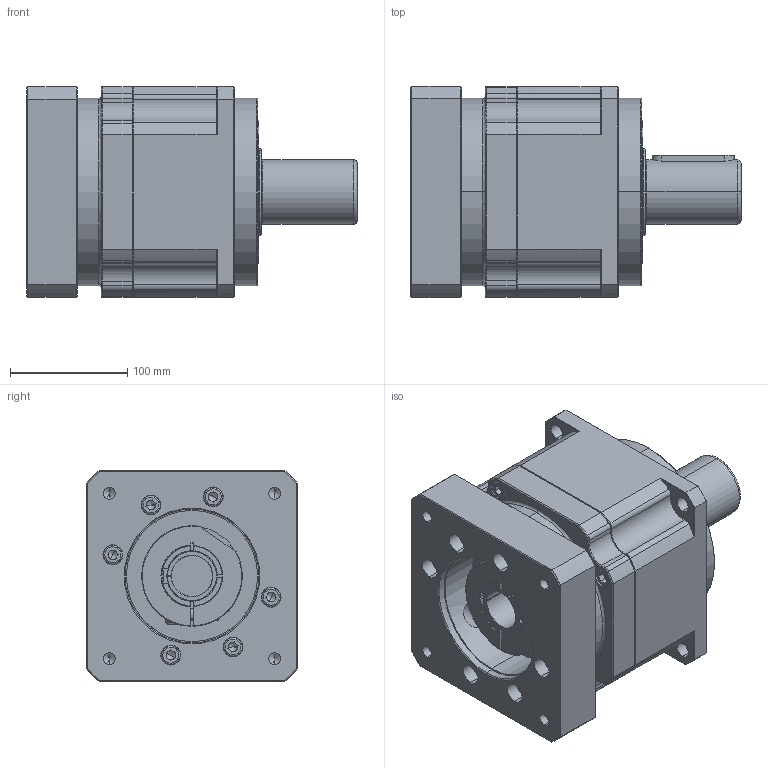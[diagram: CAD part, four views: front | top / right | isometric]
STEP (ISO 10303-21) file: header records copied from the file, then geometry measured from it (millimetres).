
FILE_DESCRIPTION (( 'STEP AP214' ), '1' );
FILE_NAME ('PAB-180-L1-S2-P1 35-114.3-200-M12.STEP', '2023-08-11T05:33:45', ( '微软用户' ), ( '微软中国' ), 'SwSTEP 2.0', 'SolidWorks 2018', '' );
FILE_SCHEMA (( 'AUTOMOTIVE_DESIGN' ));
Length unit declared in the file: millimetre
Products named in the file (11): hexagon socket head cap screws gb_GB_FASTENER_SCREWS_HSHCS M10X40-N; 42-35曹噤杶; PAB-180笢潔楊擘俋倛芞; hex socket set screws with flat point gb_GB_FASTENER_SCREWS_HSFP M20X20-N; hexagon socket head cap screws gb_GB_FASTENER_SCREWS_HSHCS M10X35-N; PAB-180一级齿圈加出轴外形图; PAB-180输入轴D42外形图; 標杶52; spring lock washers--normal type gb_GB_FASTENER_WASHER_SW 10; PAB-180-L1-S2-P1 35-114.3-200-M12; 萇儂楊擘D114.3M12-200F180H43
Assembly tree (28 placements, depth 2):
  PAB-180-L1-S2-P1 35-114.3-200-M12
    PAB-180一级齿圈加出轴外形图
    PAB-180输入轴D42外形图
    標杶52
    PAB-180笢潔楊擘俋倛芞
    萇儂楊擘D114.3M12-200F180H43
    hexagon socket head cap screws gb_GB_FASTENER_SCREWS_HSHCS M10X35-N  x5
    spring lock washers--normal type gb_GB_FASTENER_WASHER_SW 10  x10
    hexagon socket head cap screws gb_GB_FASTENER_SCREWS_HSHCS M10X40-N  x6
    hex socket set screws with flat point gb_GB_FASTENER_SCREWS_HSFP M20X20-N
    42-35曹噤杶
Bounding box: 282 x 180 x 180 mm (x, y, z)
Volume: 5149105.7 mm3; surface area: 435948.2 mm2
Topology: 28 solids, 28 shells, 981 faces, 2338 edges, 1429 vertices
Faces by surface type: plane 373, cylinder 361, cone 193, bspline 54
Entity records: 28507 total; most frequent: CARTESIAN_POINT 4962, DIRECTION 3499, ORIENTED_EDGE 3164, EDGE_CURVE 1582, AXIS2_PLACEMENT_3D 1391, VERTEX_POINT 988, EDGE_LOOP 756, CIRCLE 730
